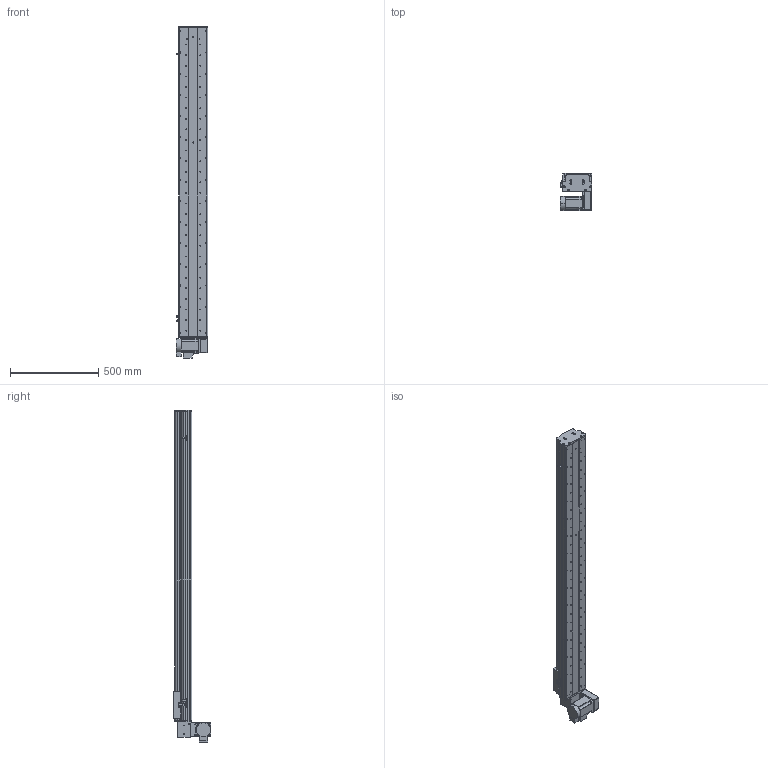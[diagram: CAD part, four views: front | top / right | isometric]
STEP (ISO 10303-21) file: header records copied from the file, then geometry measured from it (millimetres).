
FILE_DESCRIPTION (( 'STEP AP214' ), '1' );
FILE_NAME ('KSD165B-S1500-MRD-CM.STEP', '2017-10-17T00:58:20', ( '微软用户' ), ( '微软中国' ), 'SwSTEP 2.0', 'SolidWorks 2014', '' );
FILE_SCHEMA (( 'AUTOMOTIVE_DESIGN' ));
Length unit declared in the file: millimetre
Products named in the file (17): KSD165B-S1500-MRD-CM; 130宽模组马达安装板连板上下折丝杆同步带; 130宽模组保护罩上下左右折-同步带; HTPA26S5M250-A-H8 750W萇儂蚚; HTPA26S5M250-A-H8 400W萇儂蚚 ; KSD165模组-同步带防尘盖1-1500行程; KSD165模组同步带底板-1500行程; 拸秶雄ん750W侜督萇儂; 165宽马达安装板同步带右; U倰嫖萇假蚾璃; U倰嫖萇EEㄜSX672; 覜茼え68遵圉猾敕; KSD165模组-同步带-防撞垫2; KSD165模组同步带-防撞垫1; KSD165耀郪-ヶ傷啣1-肮祭湍; KSD165模组-后端板1-同步带; KSD165模组-同步带滑动座-最新版
Assembly tree (20 placements, depth 2):
  KSD165B-S1500-MRD-CM
    KSD165模组-同步带滑动座-最新版
    KSD165模组-后端板1-同步带
    KSD165耀郪-ヶ傷啣1-肮祭湍
    KSD165模组同步带-防撞垫1
    KSD165模组-同步带-防撞垫2
    覜茼え68遵圉猾敕
    U倰嫖萇EEㄜSX672  x3
    U倰嫖萇假蚾璃  x3
    165宽马达安装板同步带右
    拸秶雄ん750W侜督萇儂
    KSD165模组同步带底板-1500行程
    KSD165模组-同步带防尘盖1-1500行程
    HTPA26S5M250-A-H8 400W萇儂蚚 
    HTPA26S5M250-A-H8 750W萇儂蚚
    130宽模组保护罩上下左右折-同步带
    130宽模组马达安装板连板上下折丝杆同步带
Bounding box: 178.7 x 210 x 1880.5 mm (x, y, z)
Volume: 10173715.1 mm3; surface area: 2371683.5 mm2
Topology: 21 solids, 21 shells, 2047 faces, 5796 edges, 3788 vertices
Faces by surface type: cylinder 1339, plane 596, cone 112
Entity records: 67332 total; most frequent: CARTESIAN_POINT 13804, DIRECTION 10992, ORIENTED_EDGE 10252, EDGE_CURVE 5126, AXIS2_PLACEMENT_3D 4326, VERTEX_POINT 3380, CIRCLE 2476, LINE 2340
